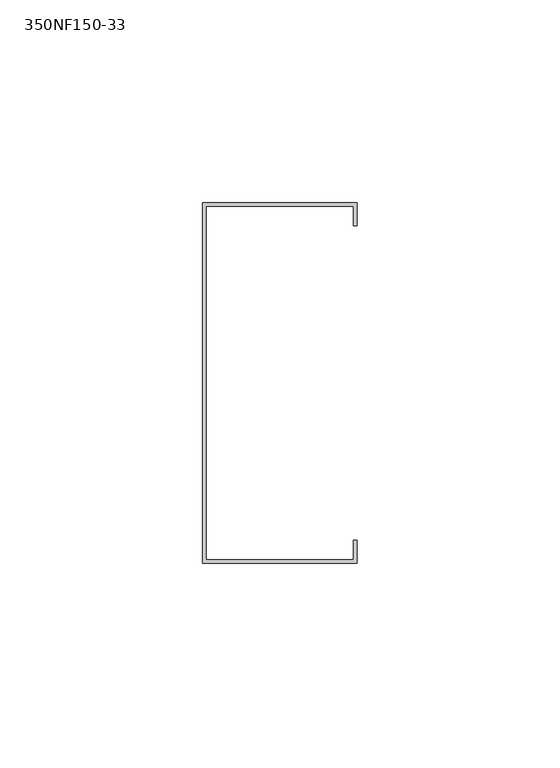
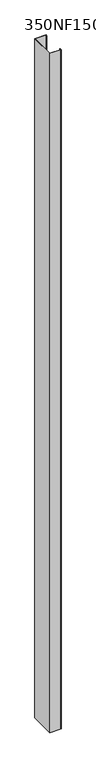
"""IFC4 building model written with IfcOpenShell, lengths in millimetres: column geometry, BIMSF-SSMA-S-Column : 350NF150-33."""

from ifc_helpers import new_model, si_unit, frame, origin, place, context, project, spatial, polyline, outline, extrude, source, transform, mapped, element, save


def column_350nf150_33_a93e9d8a(model_context):
    return source(origin(), model_context, "Body", "SweptSolid", [
        extrude(outline(polyline([(-11.9977877, -55.1871249), (-11.9977877, 33.7128751), (26.1022123, 33.7128751), (26.1022123, 28.0553593), (25.2198965, 28.0553593), (25.2198965, 32.8305593), (-11.115472, 32.8305593), (-11.115472, -54.3048092), (25.2198965, -54.3048092), (25.2198965, -49.5296092), (26.1022123, -49.5296092), (26.1022123, -55.1871249), (-11.9977877, -55.1871249)])), frame((0.0, 0.0, 3061.5929687), z_axis=(0.0, 0.0, 1.0), x_axis=(1.0, 0.0, 0.0)), (0.0, 0.0, 1.0), 2462.0140625),
    ])


if __name__ == "__main__":
    model = new_model("IFC4")
    model_context = context("Model", 3, world=origin())
    ifc_project = project(units=[si_unit("LENGTHUNIT", "METRE", prefix="MILLI")], contexts=[model_context])
    site = spatial("IfcSite", under=ifc_project)
    building = spatial("IfcBuilding", under=site)
    placement = place(None, origin())
    column_350nf150_33_shape = column_350nf150_33_a93e9d8a(model_context)
    element("IfcColumn", 1, ObjectType="BIMSF-SSMA-S-Column : 350NF150-33", at=placement, inside=building, context=model_context, shape_type="MappedRepresentation", body=[
        mapped(column_350nf150_33_shape, transform((0.0, 0.0, 0.0), x_axis=(1.0, 0.0, 0.0), y_axis=(0.0, 1.0, 0.0), z_axis=(0.0, 0.0, 1.0))),
    ])
    save(model, "model.ifc")
